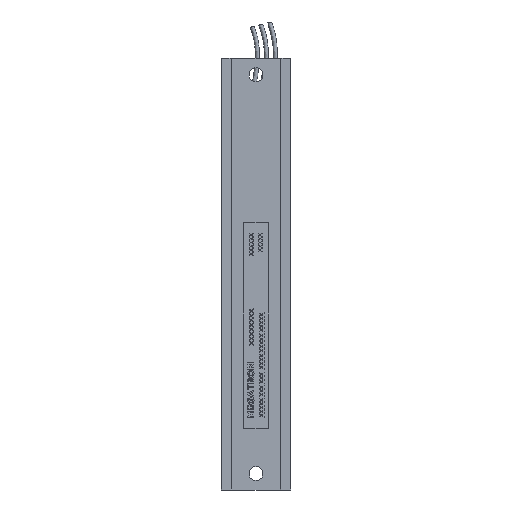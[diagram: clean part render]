
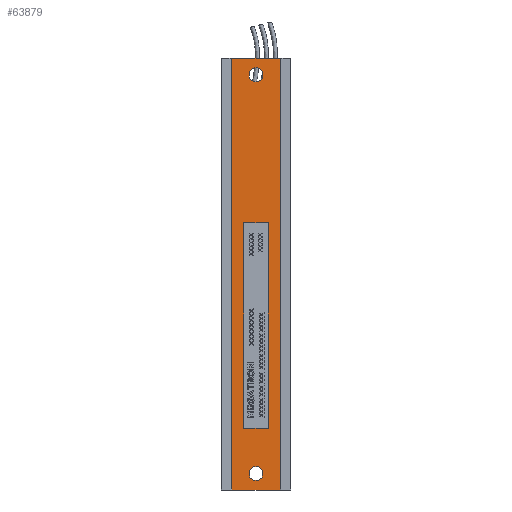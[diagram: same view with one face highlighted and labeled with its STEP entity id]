
A CAD part, front view. The second image highlights one B-rep face of the part: STEP entity #63879.
In plain terms, the highlighted planar face has unit normal (0, -1, 0).
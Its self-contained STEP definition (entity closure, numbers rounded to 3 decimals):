
#10 = DIRECTION ( 'NONE',  ( 0., 0., 1. ) ) ;
#369 = EDGE_LOOP ( 'NONE', ( #58507, #1415 ) ) ;
#1415 = ORIENTED_EDGE ( 'NONE', *, *, #4141, .F. ) ;
#1941 = LINE ( 'NONE', #9898, #15739 ) ;
#2398 = EDGE_CURVE ( 'NONE', #2792, #60966, #59654, .T. ) ;
#2661 = ORIENTED_EDGE ( 'NONE', *, *, #66255, .T. ) ;
#2792 = VERTEX_POINT ( 'NONE', #53282 ) ;
#3056 = ORIENTED_EDGE ( 'NONE', *, *, #17307, .F. ) ;
#4141 = EDGE_CURVE ( 'NONE', #57522, #23284, #59198, .T. ) ;
#5190 = EDGE_CURVE ( 'NONE', #27513, #25474, #26739, .T. ) ;
#6969 = DIRECTION ( 'NONE',  ( 0., 0., -1. ) ) ;
#8498 = ORIENTED_EDGE ( 'NONE', *, *, #47274, .T. ) ;
#8937 = CARTESIAN_POINT ( 'NONE',  ( 0., 0.1, 49. ) ) ;
#9898 = CARTESIAN_POINT ( 'NONE',  ( -6., 0.1, 45. ) ) ;
#10500 = ORIENTED_EDGE ( 'NONE', *, *, #28448, .T. ) ;
#11898 = LINE ( 'NONE', #26241, #48411 ) ;
#13049 = DIRECTION ( 'NONE',  ( 0., 1., 0. ) ) ;
#13412 = CARTESIAN_POINT ( 'NONE',  ( 5.9, 0.1, 45. ) ) ;
#14111 = DIRECTION ( 'NONE',  ( 0., 0., -1. ) ) ;
#15739 = VECTOR ( 'NONE', #51327, 1000. ) ;
#15754 = CARTESIAN_POINT ( 'NONE',  ( 1.7, 0.1, 146. ) ) ;
#16886 = CARTESIAN_POINT ( 'NONE',  ( -1.7, 0.1, 49. ) ) ;
#17307 = EDGE_CURVE ( 'NONE', #63314, #25474, #11898, .T. ) ;
#18159 = VERTEX_POINT ( 'NONE', #50938 ) ;
#19834 = CARTESIAN_POINT ( 'NONE',  ( 0., 0.1, 146. ) ) ;
#21191 = CARTESIAN_POINT ( 'NONE',  ( 5.9, 0.1, 150. ) ) ;
#21555 = EDGE_LOOP ( 'NONE', ( #31449, #8498 ) ) ;
#23284 = VERTEX_POINT ( 'NONE', #16886 ) ;
#23429 = AXIS2_PLACEMENT_3D ( 'NONE', #24201, #60347, #29424 ) ;
#23971 = CIRCLE ( 'NONE', #57948, 1.7 ) ;
#24201 = CARTESIAN_POINT ( 'NONE',  ( 0., 0.1, 49. ) ) ;
#24754 = FACE_BOUND ( 'NONE', #369, .T. ) ;
#24872 = CARTESIAN_POINT ( 'NONE',  ( -5.9, 0.1, 45. ) ) ;
#25039 = DIRECTION ( 'NONE',  ( 0., 0., -1. ) ) ;
#25474 = VERTEX_POINT ( 'NONE', #21191 ) ;
#25835 = CARTESIAN_POINT ( 'NONE',  ( 5.9, 0.1, 150. ) ) ;
#25895 = AXIS2_PLACEMENT_3D ( 'NONE', #44168, #13049, #49340 ) ;
#26241 = CARTESIAN_POINT ( 'NONE',  ( -6., 0.1, 150. ) ) ;
#26739 = LINE ( 'NONE', #25835, #38897 ) ;
#27513 = VERTEX_POINT ( 'NONE', #13412 ) ;
#27603 = CARTESIAN_POINT ( 'NONE',  ( -6., 0.1, 45. ) ) ;
#28448 = EDGE_CURVE ( 'NONE', #18159, #27513, #1941, .T. ) ;
#29424 = DIRECTION ( 'NONE',  ( 0., 0., -1. ) ) ;
#30123 = DIRECTION ( 'NONE',  ( 0., 0., -1. ) ) ;
#31449 = ORIENTED_EDGE ( 'NONE', *, *, #2398, .T. ) ;
#32817 = PLANE ( 'NONE',  #35868 ) ;
#35868 = AXIS2_PLACEMENT_3D ( 'NONE', #27603, #38029, #6969 ) ;
#36931 = FACE_OUTER_BOUND ( 'NONE', #47468, .T. ) ;
#37230 = CARTESIAN_POINT ( 'NONE',  ( -5.9, 0.1, 150. ) ) ;
#38029 = DIRECTION ( 'NONE',  ( 0., -1., 0. ) ) ;
#38643 = LINE ( 'NONE', #24872, #64490 ) ;
#38897 = VECTOR ( 'NONE', #10, 1000. ) ;
#42266 = EDGE_CURVE ( 'NONE', #23284, #57522, #23971, .T. ) ;
#44168 = CARTESIAN_POINT ( 'NONE',  ( 0., 0.1, 146. ) ) ;
#45181 = DIRECTION ( 'NONE',  ( 0., -1., 0. ) ) ;
#47218 = CARTESIAN_POINT ( 'NONE',  ( 1.7, 0.1, 49. ) ) ;
#47274 = EDGE_CURVE ( 'NONE', #60966, #2792, #61093, .T. ) ;
#47468 = EDGE_LOOP ( 'NONE', ( #10500, #58219, #3056, #2661 ) ) ;
#48411 = VECTOR ( 'NONE', #62630, 1000. ) ;
#49340 = DIRECTION ( 'NONE',  ( 0., 0., -1. ) ) ;
#50938 = CARTESIAN_POINT ( 'NONE',  ( -5.9, 0.1, 45. ) ) ;
#51327 = DIRECTION ( 'NONE',  ( 1., 0., 0. ) ) ;
#53282 = CARTESIAN_POINT ( 'NONE',  ( -1.7, 0.1, 146. ) ) ;
#56006 = DIRECTION ( 'NONE',  ( 0., 1., 0. ) ) ;
#56572 = AXIS2_PLACEMENT_3D ( 'NONE', #19834, #56006, #25039 ) ;
#57522 = VERTEX_POINT ( 'NONE', #47218 ) ;
#57948 = AXIS2_PLACEMENT_3D ( 'NONE', #8937, #45181, #14111 ) ;
#58219 = ORIENTED_EDGE ( 'NONE', *, *, #5190, .T. ) ;
#58507 = ORIENTED_EDGE ( 'NONE', *, *, #42266, .F. ) ;
#59198 = CIRCLE ( 'NONE', #23429, 1.7 ) ;
#59654 = CIRCLE ( 'NONE', #25895, 1.7 ) ;
#60347 = DIRECTION ( 'NONE',  ( 0., -1., 0. ) ) ;
#60966 = VERTEX_POINT ( 'NONE', #15754 ) ;
#61093 = CIRCLE ( 'NONE', #56572, 1.7 ) ;
#62630 = DIRECTION ( 'NONE',  ( 1., 0., 0. ) ) ;
#63314 = VERTEX_POINT ( 'NONE', #37230 ) ;
#63879 = ADVANCED_FACE ( 'NONE', ( #36931, #24754, #64356 ), #32817, .T. ) ;
#64356 = FACE_BOUND ( 'NONE', #21555, .T. ) ;
#64490 = VECTOR ( 'NONE', #30123, 1000. ) ;
#66255 = EDGE_CURVE ( 'NONE', #63314, #18159, #38643, .T. ) ;
